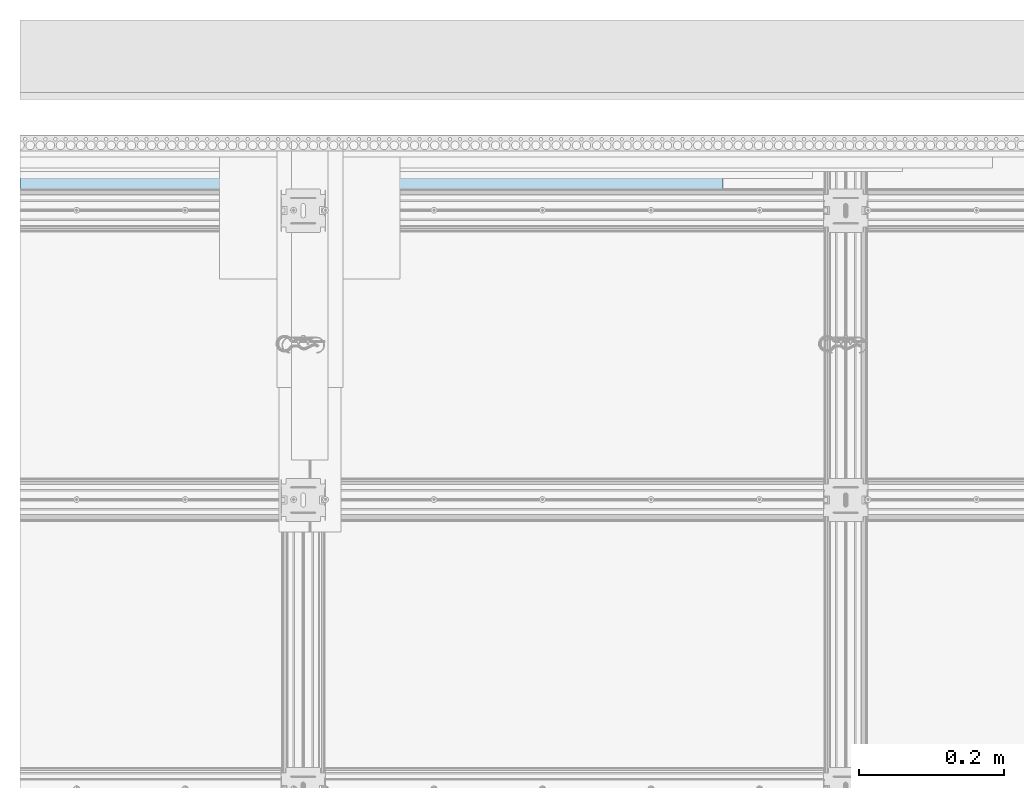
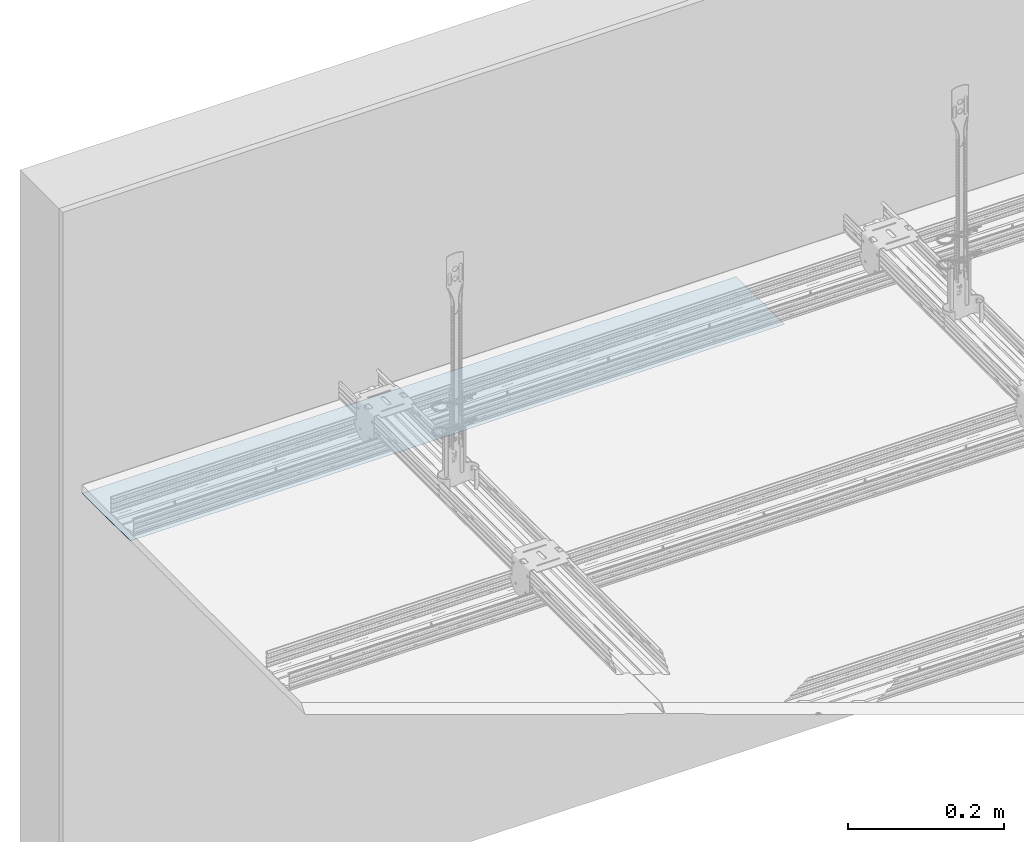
# One storey, part 4 of 34: 1 slab.
"""IFC2X3 building model written with IfcOpenShell, lengths in millimetres."""

from ifc_helpers import new_model, entity, si_unit, converted_unit, direction, frame, origin, origin_with_axes, place, context, project, spatial, faceted_brep, element, save


model = new_model("IFC2X3")

# Units and contexts
model_context = context("Model", 3, precision=1e-05, world=origin(), true_north=direction((0.0, 1.0, 0.0)))
ifc_project = project(units=[si_unit("LENGTHUNIT", "METRE", prefix="MILLI"), si_unit("AREAUNIT", "SQUARE_METRE"), si_unit("VOLUMEUNIT", "CUBIC_METRE"), converted_unit("PLANEANGLEUNIT", "DEGREE", entity("IfcPlaneAngleMeasure", 0.01745), si_unit("PLANEANGLEUNIT", "RADIAN"), dimensions=[0, 0, 0, 0, 0, 0, 0]), si_unit("SOLIDANGLEUNIT", "STERADIAN"), si_unit("MASSUNIT", "GRAM"), si_unit("TIMEUNIT", "SECOND"), si_unit("THERMODYNAMICTEMPERATUREUNIT", "DEGREE_CELSIUS"), si_unit("LUMINOUSINTENSITYUNIT", "LUMEN")], contexts=[model_context])

# Site, building, storey
site_placement = place(None, origin_with_axes())
site = spatial("IfcSite", under=ifc_project, at=site_placement, Name="Default Site", CompositionType="ELEMENT")
building_placement = place(site_placement, origin_with_axes())
building = spatial("IfcBuilding", under=site, at=building_placement, Name="Default Building", CompositionType="ELEMENT")
storey_placement = place(building_placement, origin_with_axes())
storey = spatial("IfcBuildingStorey", under=building, at=storey_placement, Name="Default Building Storey", CompositionType="ELEMENT", Elevation=0.0)

# Slab
slab_placement = place(storey_placement, frame((2542.250504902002, 2720.285746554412, 4102.56583431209), z_axis=(1.0, 9.998889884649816e-14, -2.657263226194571e-12), x_axis=(-1.537867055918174e-13, 1.0, 2.784771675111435e-12)))
element("IfcSlab", 1, at=slab_placement, inside=storey, Name="Dedykowana masa szpachlowa Rigips - wykończeniowa", context=model_context, shape_type="Brep", body=[
    faceted_brep([(-762.4602403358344, -3122.348552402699, 554.4180031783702), (-762.460240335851, -3122.348552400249, -417.2253714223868), (-812.4612643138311, -3122.053945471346, -417.2253714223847), (-812.4612643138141, -3122.053945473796, 554.4180031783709), (-797.4592163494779, -3122.017124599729, -417.2253714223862), (-797.4592163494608, -3122.017124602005, 554.4180031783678), (-797.4592163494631, -3121.648870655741, 554.4180031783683), (-797.4592163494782, -3121.648870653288, -417.2253714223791), (-737.4592163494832, -3122.348552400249, -417.2253714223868), (-737.4592163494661, -3122.348552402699, 554.4180031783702), (-862.4592163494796, -3121.188553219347, -417.2253714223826), (-862.4592163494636, -3121.188553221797, 554.4180031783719), (-737.4592163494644, -3122.017124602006, 554.4180031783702), (-797.4592163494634, -3121.188553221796, 554.4180031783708), (-737.4592163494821, -3122.017124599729, -417.2253714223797), (-797.45921634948, -3121.188553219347, -417.2253714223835)], [[[0, 1, 2, 3]], [[4, 5, 6, 7]], [[8, 1, 0, 9]], [[10, 11, 3, 2]], [[12, 9, 0, 3, 11, 13, 6, 5]], [[14, 8, 9, 12]], [[13, 11, 10, 15]], [[13, 15, 7, 6]], [[14, 12, 5, 4]], [[4, 7, 15, 10, 2, 1, 8, 14]]]),
])

save(model, "model.ifc")
